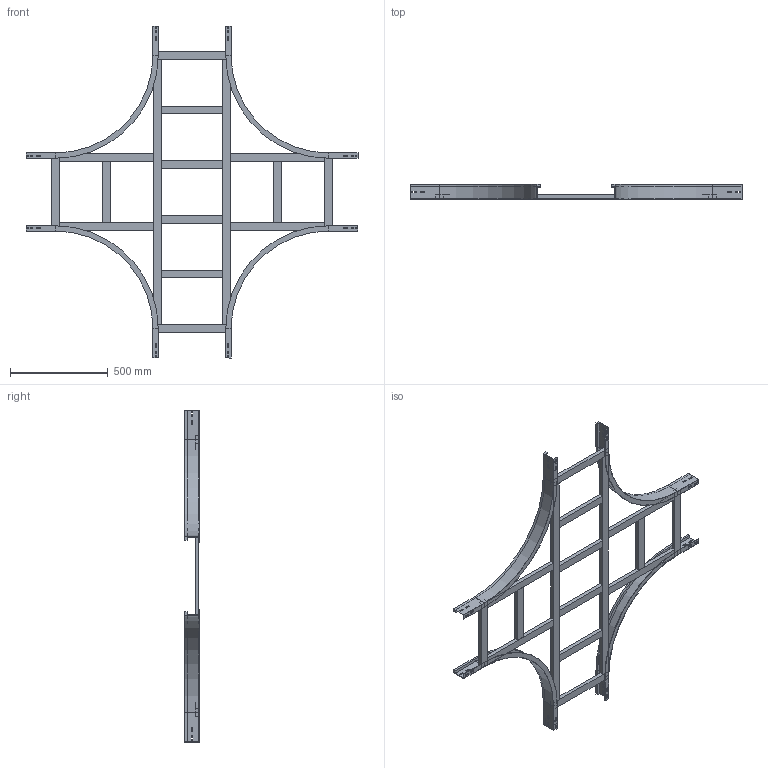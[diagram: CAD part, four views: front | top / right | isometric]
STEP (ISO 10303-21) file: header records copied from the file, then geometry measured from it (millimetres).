
FILE_DESCRIPTION (( 'STEP AP214' ), '1' );
FILE_NAME ('17B5C400.step', '2025-02-21T15:57:48', ( '' ), ( '' ), 'SwSTEP 2.0', 'SolidWorks 2023', '' );
FILE_SCHEMA (( 'AUTOMOTIVE_DESIGN' ));
Length unit declared in the file: millimetre
Products named in the file (7): TRAVERSINO_INTERMEDIO_R500+400; TRAVERSINO_400; TRAVERSINO_VERT_R500; 17B5C400; LONGH.INTERNO 90°_H75_R500; TRAVERSINO_COPPIA_400; TRAVERSINO_LONG._R500+400
Assembly tree (20 placements, depth 2):
  17B5C400
    LONGH.INTERNO 90°_H75_R500  x4
    TRAVERSINO_400  x4
    TRAVERSINO_LONG._R500+400  x2
    TRAVERSINO_INTERMEDIO_R500+400  x4
    TRAVERSINO_VERT_R500  x4
    TRAVERSINO_COPPIA_400  x2
Bounding box: 1700 x 75 x 1700 mm (x, y, z)
Volume: 8286809.8 mm3; surface area: 2039101.9 mm2
Topology: 20 solids, 20 shells, 328 faces, 800 edges, 512 vertices
Faces by surface type: plane 312, cylinder 16
Entity records: 2860 total; most frequent: CARTESIAN_POINT 459, DIRECTION 442, ORIENTED_EDGE 424, EDGE_CURVE 212, VECTOR 204, LINE 204, VERTEX_POINT 136, AXIS2_PLACEMENT_3D 119
